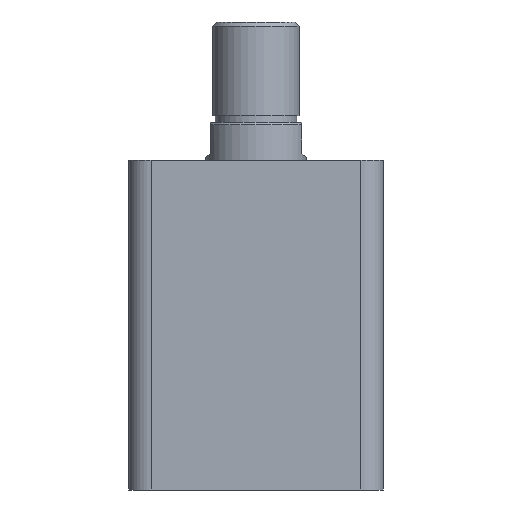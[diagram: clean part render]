
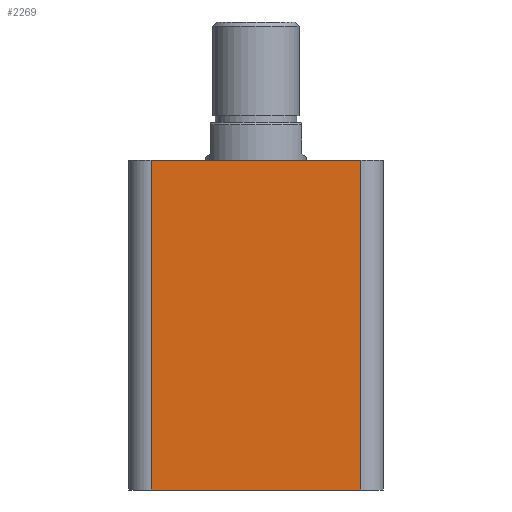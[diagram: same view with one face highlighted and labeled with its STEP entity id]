
A CAD part, front view. The second image highlights one B-rep face of the part: STEP entity #2269.
In plain terms, the highlighted planar face has unit normal (0, -1, 0).
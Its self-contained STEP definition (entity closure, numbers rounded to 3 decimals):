
#45 = VERTEX_POINT ( 'NONE', #631 ) ;
#56 = VERTEX_POINT ( 'NONE', #642 ) ;
#58 = VERTEX_POINT ( 'NONE', #644 ) ;
#59 = VERTEX_POINT ( 'NONE', #645 ) ;
#321 = DIRECTION ( 'NONE',  ( 1., 0., 0. ) ) ;
#337 = CARTESIAN_POINT ( 'NONE',  ( -57., -57., 148. ) ) ;
#341 = CARTESIAN_POINT ( 'NONE',  ( -47., -57., 148. ) ) ;
#342 = DIRECTION ( 'NONE',  ( 0., 0., -1. ) ) ;
#349 = CARTESIAN_POINT ( 'NONE',  ( 47., -57., 148. ) ) ;
#350 = DIRECTION ( 'NONE',  ( 0., 0., 1. ) ) ;
#631 = CARTESIAN_POINT ( 'NONE',  ( -47., -57., 0. ) ) ;
#642 = CARTESIAN_POINT ( 'NONE',  ( 47., -57., 0. ) ) ;
#644 = CARTESIAN_POINT ( 'NONE',  ( -47., -57., 148. ) ) ;
#645 = CARTESIAN_POINT ( 'NONE',  ( 47., -57., 148. ) ) ;
#743 = DIRECTION ( 'NONE',  ( 1., 0., 0. ) ) ;
#746 = CARTESIAN_POINT ( 'NONE',  ( -57., -57., 0. ) ) ;
#1025 = FACE_OUTER_BOUND ( 'NONE', #2738, .T. ) ;
#1266 = AXIS2_PLACEMENT_3D ( 'NONE', #1904, #2493, #1504 ) ;
#1322 = EDGE_CURVE ( 'NONE', #45, #56, #2080, .T. ) ;
#1350 = EDGE_CURVE ( 'NONE', #58, #59, #2119, .T. ) ;
#1353 = EDGE_CURVE ( 'NONE', #58, #45, #2124, .T. ) ;
#1354 = EDGE_CURVE ( 'NONE', #56, #59, #2125, .T. ) ;
#1504 = DIRECTION ( 'NONE',  ( 0., 0., 1. ) ) ;
#1904 = CARTESIAN_POINT ( 'NONE',  ( -57., -57., 148. ) ) ;
#1906 = PLANE ( 'NONE',  #1266 ) ;
#2041 = ORIENTED_EDGE ( 'NONE', *, *, #1353, .T. ) ;
#2042 = ORIENTED_EDGE ( 'NONE', *, *, #1350, .F. ) ;
#2043 = ORIENTED_EDGE ( 'NONE', *, *, #1354, .T. ) ;
#2044 = ORIENTED_EDGE ( 'NONE', *, *, #1322, .T. ) ;
#2080 = LINE ( 'NONE', #746, #2084 ) ;
#2084 = VECTOR ( 'NONE', #743, 1000. ) ;
#2119 = LINE ( 'NONE', #337, #2122 ) ;
#2122 = VECTOR ( 'NONE', #321, 1000. ) ;
#2124 = LINE ( 'NONE', #341, #2126 ) ;
#2125 = LINE ( 'NONE', #349, #2128 ) ;
#2126 = VECTOR ( 'NONE', #342, 1000. ) ;
#2128 = VECTOR ( 'NONE', #350, 1000. ) ;
#2269 = ADVANCED_FACE ( 'NONE', ( #1025 ), #1906, .F. ) ;
#2493 = DIRECTION ( 'NONE',  ( 0., 1., 0. ) ) ;
#2738 = EDGE_LOOP ( 'NONE', ( #2044, #2043, #2042, #2041 ) ) ;
